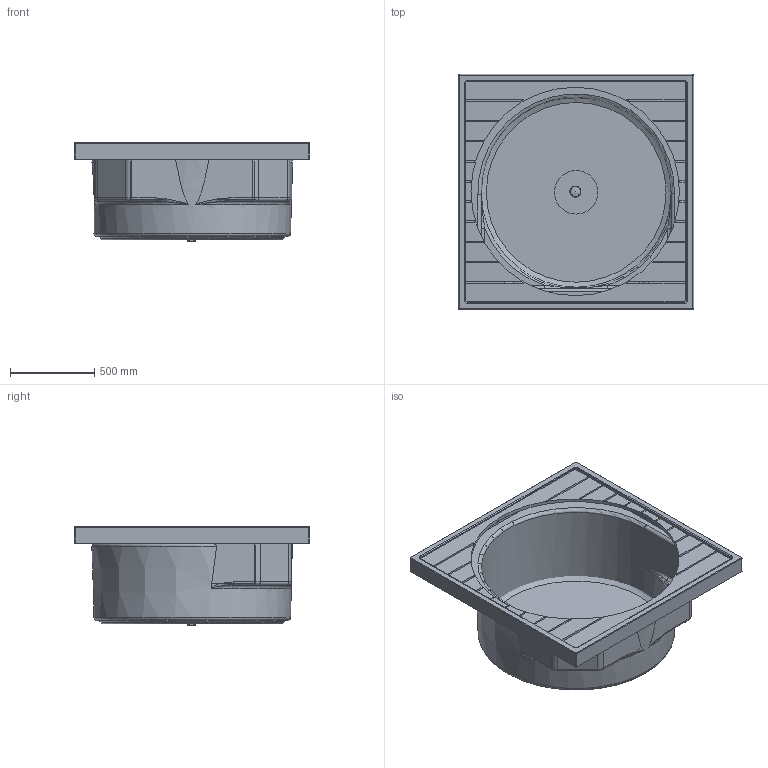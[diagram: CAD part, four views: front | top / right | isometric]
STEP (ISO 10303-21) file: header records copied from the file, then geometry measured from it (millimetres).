
FILE_DESCRIPTION((''),'2;1');
FILE_NAME('C:\Dokumente und Einstellungen\Andreas\Desktop\ARprivat\ÄnderungenNeuheiten 4\Änderung Blue Moon\3D_ÄNDERUNGEN_BLUE MOON\stp\700143mHE.stp','2009-02-19T16:06:34',('Andreas'),(''),'Autodesk Inventor 2009','Autodesk Inventor 2009','');
FILE_SCHEMA(('AUTOMOTIVE_DESIGN { 1 0 10303 214 1 1 1 1 }'));
Length unit declared in the file: millimetre
Products named in the file (5): 700143mHE; 700143; Kelch; Stopfen; 790851
Assembly tree (6 placements, depth 2):
  700143mHE
    700143
    Kelch  x2
    Stopfen  x2
    790851
Bounding box: 1400 x 1400 x 589.4 mm (x, y, z)
Volume: 89738064.3 mm3; surface area: 16343278.6 mm2
Topology: 7 solids, 7 shells, 325 faces, 889 edges, 544 vertices
Faces by surface type: plane 156, cylinder 109, torus 25, bspline 23, cone 8, sphere 4
Full cylindrical faces by diameter (mm): 42 x2, 44 x2, 52 x4, 60 x2, 258.158 x1, 1070 x1, 1130 x1, 1150 x1, 1240 x1
Entity records: 12129 total; most frequent: CARTESIAN_POINT 4646, ORIENTED_EDGE 1544, DIRECTION 1525, EDGE_CURVE 772, AXIS2_PLACEMENT_3D 515, VECTOR 495, LINE 495, VERTEX_POINT 487
